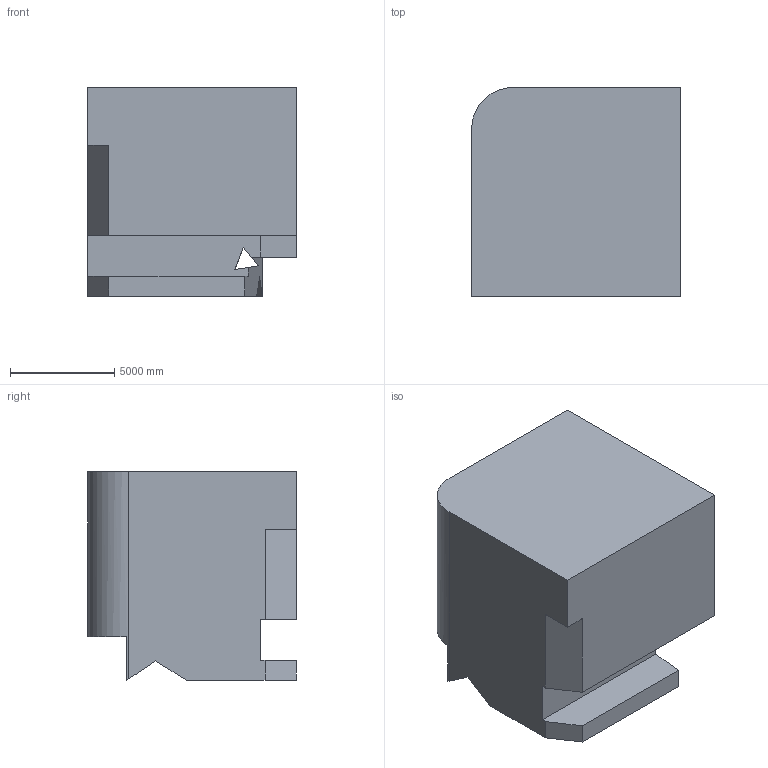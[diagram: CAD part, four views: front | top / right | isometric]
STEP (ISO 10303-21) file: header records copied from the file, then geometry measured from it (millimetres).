
FILE_DESCRIPTION (( 'STEP AP203' ), '1' );
FILE_NAME ('369.STEP', '2022-09-07T13:15:49', ( 'user' ), ( '' ), 'SwSTEP 2.0', 'SolidWorks 2021', '' );
FILE_SCHEMA (( 'CONFIG_CONTROL_DESIGN' ));
Length unit declared in the file: centimetre
Products named in the file (1): 369
Bounding box: 10000 x 10000 x 10000 mm (x, y, z)
Volume: 841715610708.7 mm3; surface area: 664650092.7 mm2
Topology: 1 solids, 1 shells, 31 faces, 96 edges, 64 vertices
Faces by surface type: plane 28, cylinder 3
Entity records: 1141 total; most frequent: CARTESIAN_POINT 207, ORIENTED_EDGE 192, DIRECTION 161, EDGE_CURVE 96, VECTOR 85, LINE 85, VERTEX_POINT 64, AXIS2_PLACEMENT_3D 38
